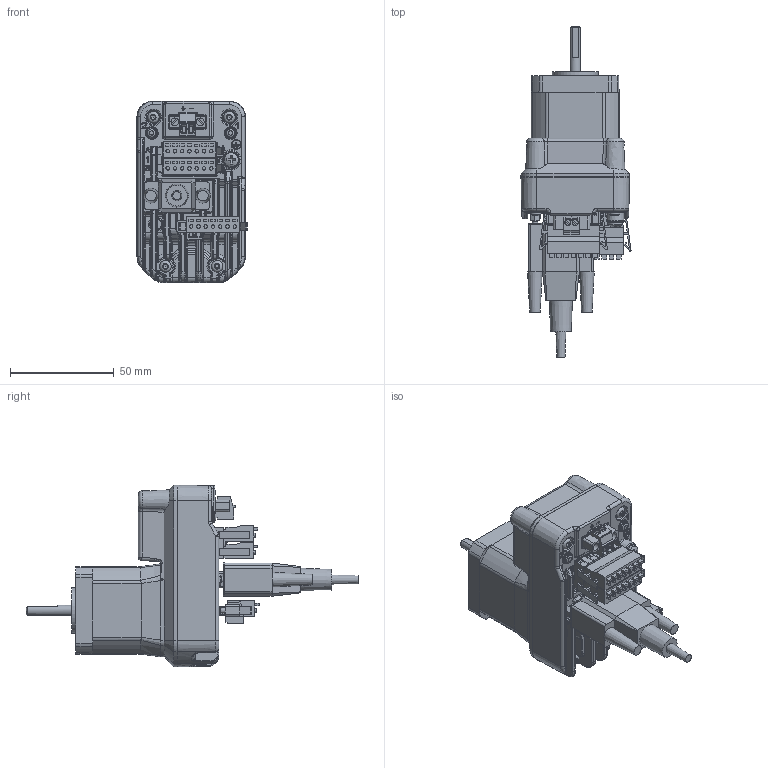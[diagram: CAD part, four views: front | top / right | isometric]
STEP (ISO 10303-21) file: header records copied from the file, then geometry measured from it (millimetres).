
FILE_DESCRIPTION(('LMDXPMA42-Double-Stack Web Model'),'1');
FILE_NAME('C:/temp/LMDXPMA42-Double-Stack Web Model.stp', '2013-09-24T14:36:07',('P. Bordua, 09/24/13'), ('Schneider Electric Motion USA'), 'KCM Version 1.1.794.0', 'Kubotek KeyCreator', 'Kubotek KeyCreator 2014 V12.0');
FILE_SCHEMA(('AUTOMOTIVE_DESIGN'));
Length unit declared in the file: inch
Products named in the file (6): Dinkle 0221-24-B3085308P, Pin-2 Keyed, Plug, 3.50mm Pitch, 7 x 1 Pos., Locking Tabs[Part1]; DB9 Mate (cable, Female)[Part1]; Dinkle EC350VM-B3081302P, Plug, 3.50 mm, 2 x 1 Pos[Part1]; Dinkle 0221-24-B3085308P, Pin-5 Keyed, Plug, 3.50mm Pitch, 7 x 1 Pos., Locking Tabs[Part1]
Bounding box: 53.03 x 159.95 x 87.6 mm (x, y, z)
Volume: 238988.5 mm3; surface area: 55506.1 mm2
Topology: 9 solids, 9 shells, 3548 faces, 8789 edges, 5546 vertices
Faces by surface type: plane 1881, cylinder 832, bspline 594, cone 123, torus 62, sphere 56
Full cylindrical faces by diameter (mm): 1.092 x27, 1.6 x31, 1.611 x4, 1.686 x28, 2.261 x2, 2.449 x4, 2.5 x2, 2.743 x4, 3 x1, 3.505 x1, 3.792 x4, 5 x1, 5.004 x2, 5.6 x4, 6.858 x1, 9.525 x1, 21.996 x1
Entity records: 132725 total; most frequent: CARTESIAN_POINT 58591, ORIENTED_EDGE 14026, DIRECTION 12977, EDGE_CURVE 7013, AXIS2_PLACEMENT_3D 4509, VERTEX_POINT 4387, VECTOR 3959, LINE 3959
